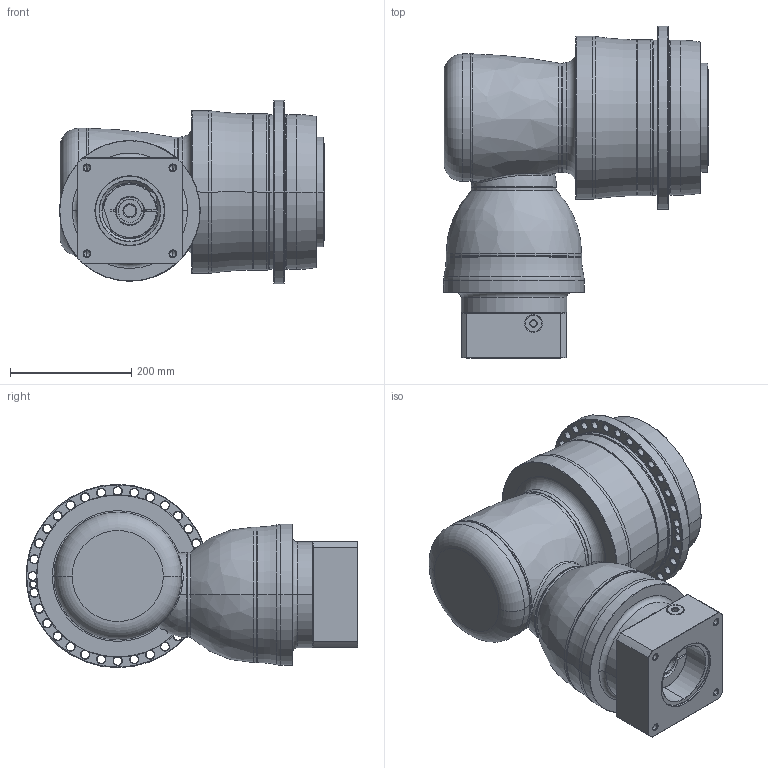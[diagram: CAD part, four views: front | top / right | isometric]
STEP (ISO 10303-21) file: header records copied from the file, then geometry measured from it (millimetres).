
FILE_DESCRIPTION((''),'2;1');
FILE_NAME('APK255_4ST_38-P0409910201_ASM','2018-10-04T',('D00080'),(''),'PRO/ENGINEER BY PARAMETRIC TECHNOLOGY CORPORATION, 2015240','PRO/ENGINEER BY PARAMETRIC TECHNOLOGY CORPORATION, 2015240','');
FILE_SCHEMA(('CONFIG_CONTROL_DESIGN'));
Length unit declared in the file: millimetre
Products named in the file (13): P1008600002; P1832700001; P0278701003; P0359701103; P1211700001; P1315600001; P1007601001; P1317610401; P0503900012; P0912554001; P0409910201; 21711422019; APK255_4ST_38-P0409910201_ASM
Assembly tree (12 placements, depth 2):
  APK255_4ST_38-P0409910201_ASM
    P1008600002
    P1832700001
    P0278701003
    P0359701103
    P1211700001
    P1315600001
    P1007601001
    P1317610401
    P0503900012
    P0912554001
    P0409910201
    21711422019
Bounding box: 436.5 x 546.5 x 302 mm (x, y, z)
Volume: 25491911.3 mm3; surface area: 1533053.1 mm2
Topology: 13 solids, 36 shells, 810 faces, 1892 edges, 1130 vertices
Faces by surface type: cylinder 311, cone 258, plane 121, torus 85, bspline 33, sphere 2
Entity records: 29738 total; most frequent: CARTESIAN_POINT 10534, DIRECTION 4417, ORIENTED_EDGE 3614, AXIS2_PLACEMENT_3D 1891, EDGE_CURVE 1854, VERTEX_POINT 1130, CIRCLE 1077, EDGE_LOOP 954
